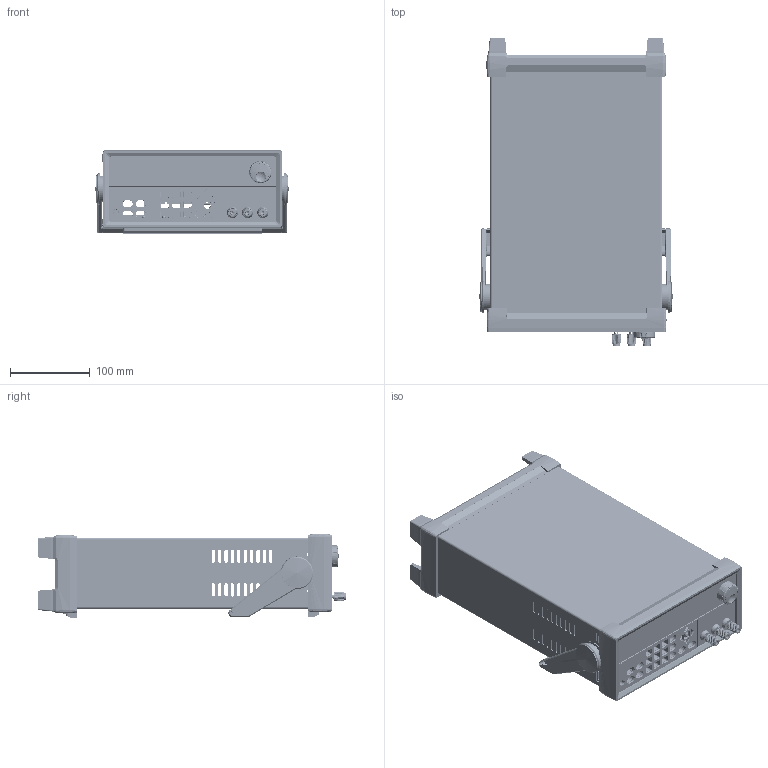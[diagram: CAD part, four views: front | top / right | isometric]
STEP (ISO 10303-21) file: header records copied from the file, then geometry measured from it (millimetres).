
FILE_DESCRIPTION((''),'2;1');
FILE_NAME('MASTER_TESLA_ASM','2020-08-26T14:22:38',('mthomps2'),(''),'CREO PARAMETRIC BY PTC INC, 2019080','CREO PARAMETRIC BY PTC INC, 2019080','');
FILE_SCHEMA(('CONFIG_CONTROL_DESIGN','SHAPE_APPEARANCE_LAYERS_GROUPS'));
Length unit declared in the file: inch
Products named in the file (34): MASTER_SKEL_TESLA; MODULE_FRONT_SKEL_TES; FRONT_BEZEL_TES; KNOB_100_SOLID_SKEL_TES; KNOB_100_SOLID_TES; KNOB_SPRING_TES; KNOB_100_SOLID_TES_ASM; GLASS_DISPLAY_GENERIC_TES; LABEL_FRNT-PNL_4K_TES; LABEL_INPUTS_TES; LABEL_INPUTS_01_TES; MODULE_FRONT_TES_ASM; ENCODER_16MM_TOP-MT_DETENT_TES; PRT33_BK9K_TES; PRT34_BK9K_TES; PRT35_BK9K_TES; PRT36_BK9K_TES; ASM08_BK9K_TES_ASM; PRT37_BK9K_TES; PRT38_BK9K_TES; PRT39_BK9K_TES; PRT40_BK9K_TES; ASM07_BK9K_TES_ASM; MODULE_FRONT_01_TES_ASM; BOOT_FLUKE_TESLA; TOP_COVER_TES; HANDLE_FLUKE_TESLA; BACKPANEL_4000PWS_TES; PRT25_BK9K_TES; ASM06_BK9K_TES_ASM; LABEL_REAR-PANEL_4KSERIES_TES; BOOT_REAR_TES; SCREW_TESLA; MASTER_TESLA_ASM
Assembly tree (46 placements, depth 5):
  MASTER_TESLA_ASM
    MASTER_SKEL_TESLA
    MODULE_FRONT_TES_ASM
      MODULE_FRONT_SKEL_TES
      FRONT_BEZEL_TES
      KNOB_100_SOLID_TES_ASM
        KNOB_100_SOLID_SKEL_TES
        KNOB_100_SOLID_TES
        KNOB_SPRING_TES
      GLASS_DISPLAY_GENERIC_TES
      LABEL_FRNT-PNL_4K_TES
      LABEL_INPUTS_TES
      LABEL_INPUTS_01_TES
    MODULE_FRONT_01_TES_ASM
      ENCODER_16MM_TOP-MT_DETENT_TES
      ASM07_BK9K_TES_ASM  x3
        PRT33_BK9K_TES
        PRT34_BK9K_TES
        ASM08_BK9K_TES_ASM
          PRT35_BK9K_TES
          PRT36_BK9K_TES
        PRT37_BK9K_TES
        PRT38_BK9K_TES
        PRT39_BK9K_TES
        PRT40_BK9K_TES
    BOOT_FLUKE_TESLA
    TOP_COVER_TES
    HANDLE_FLUKE_TESLA
    BACKPANEL_4000PWS_TES
    ASM06_BK9K_TES_ASM
      PRT25_BK9K_TES
    LABEL_REAR-PANEL_4KSERIES_TES
    BOOT_REAR_TES
    SCREW_TESLA  x12
Bounding box: 241.81 x 385.1 x 105.34 mm (x, y, z)
Volume: 813337.6 mm3; surface area: 850118.3 mm2
Topology: 114 solids, 120 shells, 8009 faces, 21573 edges, 13508 vertices
Faces by surface type: plane 3231, cylinder 2196, bspline 1306, cone 811, torus 293, sphere 162, revolution 8, extrusion 2
Entity records: 305555 total; most frequent: CARTESIAN_POINT 115458, ORIENTED_EDGE 33329, DIRECTION 29265, EDGE_CURVE 16819, PRESENTATION_STYLE_ASSIGNMENT 11665, STYLED_ITEM 11665, CURVE_STYLE 11232, VERTEX_POINT 10604
